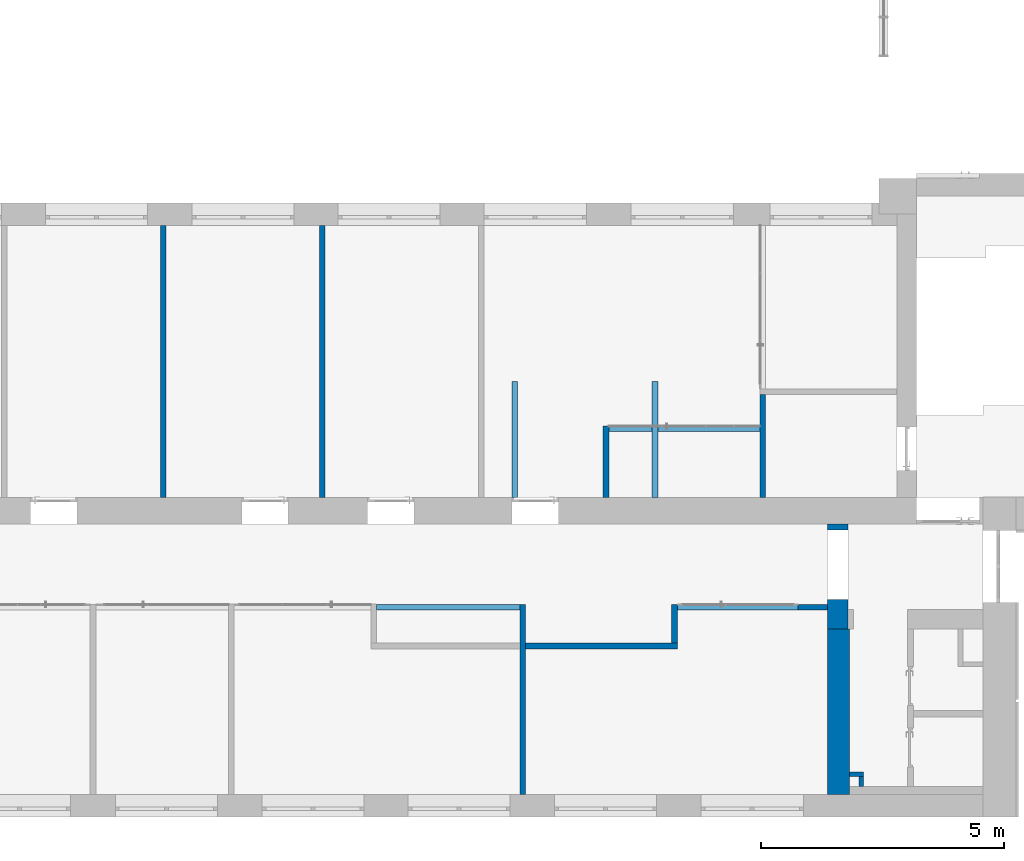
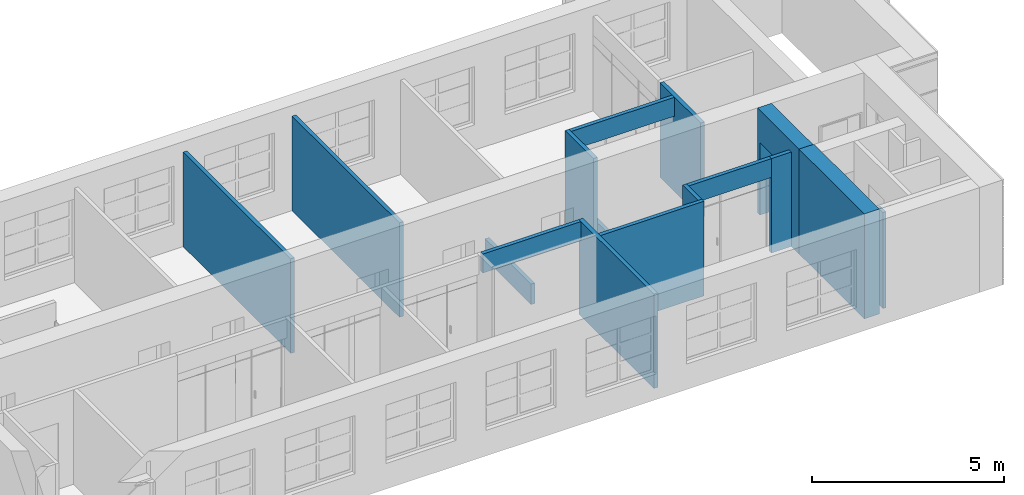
# One storey, part 58 of 73: 17 walls, 1 opening.
"""IFC2X3 building model written with IfcOpenShell, lengths in millimetres."""

from ifc_helpers import new_model, entity, si_unit, converted_unit, derived_unit, direction, frame, frame_2d, origin, place, context, subcontext, project, spatial, rectangle, extrude, material, layer, layer_set, layer_usage, type_object, element, save


model = new_model("IFC2X3")

# Units and contexts
model_context = context("Model", 3, precision=0.01, world=origin(), true_north=direction((6.12303176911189e-17, 1.0)))
body_context = subcontext(model_context, "Body", "Model", "MODEL_VIEW")
ifc_project = project(units=[si_unit("LENGTHUNIT", "METRE", prefix="MILLI"), si_unit("AREAUNIT", "SQUARE_METRE"), si_unit("VOLUMEUNIT", "CUBIC_METRE"), converted_unit("PLANEANGLEUNIT", "DEGREE", entity("IfcRatioMeasure", 0.0174532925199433), si_unit("PLANEANGLEUNIT", "RADIAN"), dimensions=[0, 0, 0, 0, 0, 0, 0]), si_unit("MASSUNIT", "GRAM", prefix="KILO"), derived_unit("MASSDENSITYUNIT", [(si_unit("MASSUNIT", "GRAM", prefix="KILO"), 1), (si_unit("LENGTHUNIT", "METRE"), -3)]), si_unit("TIMEUNIT", "SECOND"), si_unit("FREQUENCYUNIT", "HERTZ"), si_unit("THERMODYNAMICTEMPERATUREUNIT", "DEGREE_CELSIUS"), derived_unit("THERMALTRANSMITTANCEUNIT", [(si_unit("MASSUNIT", "GRAM", prefix="KILO"), 1), (si_unit("THERMODYNAMICTEMPERATUREUNIT", "KELVIN"), -1), (si_unit("TIMEUNIT", "SECOND"), -3)]), derived_unit("VOLUMETRICFLOWRATEUNIT", [(si_unit("LENGTHUNIT", "METRE"), 3), (si_unit("TIMEUNIT", "SECOND"), -1)]), si_unit("ELECTRICCURRENTUNIT", "AMPERE"), si_unit("ELECTRICVOLTAGEUNIT", "VOLT"), si_unit("POWERUNIT", "WATT"), si_unit("FORCEUNIT", "NEWTON", prefix="KILO"), si_unit("ILLUMINANCEUNIT", "LUX"), si_unit("LUMINOUSFLUXUNIT", "LUMEN"), si_unit("LUMINOUSINTENSITYUNIT", "CANDELA"), derived_unit("USERDEFINED", [(si_unit("MASSUNIT", "GRAM", prefix="KILO"), -1), (si_unit("LENGTHUNIT", "METRE"), -2), (si_unit("TIMEUNIT", "SECOND"), 3), (si_unit("LUMINOUSFLUXUNIT", "LUMEN"), 1)]), derived_unit("LINEARVELOCITYUNIT", [(si_unit("LENGTHUNIT", "METRE"), 1), (si_unit("TIMEUNIT", "SECOND"), -1)]), si_unit("PRESSUREUNIT", "PASCAL"), derived_unit("USERDEFINED", [(si_unit("LENGTHUNIT", "METRE"), -2), (si_unit("MASSUNIT", "GRAM", prefix="KILO"), 1), (si_unit("TIMEUNIT", "SECOND"), -2)])], contexts=[model_context])

# Site, building, storey
site_placement = place(None, frame((-151.875543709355, 2715.0, 0.0)))
site = spatial("IfcSite", under=ifc_project, at=site_placement, Name="Surface", CompositionType="ELEMENT")
building_placement = place(site_placement, origin())
building = spatial("IfcBuilding", under=site, at=building_placement, CompositionType="ELEMENT")
storey_placement = place(building_placement, frame((0.0, 0.0, 6730.43000000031)))
storey = spatial("IfcBuildingStorey", under=building, at=storey_placement, Name="3 korrus", CompositionType="ELEMENT", Elevation=6730.43000000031)

# Wall, opening
ifc_material_1 = material(Name="__Kips GN13_tava")
ifc_layer_1 = layer(ifc_material_1, 20.0)
ifc_material_2 = material(Name="Brick, Common")
ifc_layer_2 = layer(ifc_material_2, 380.0)
ifc_layer_3 = layer(ifc_material_1, 20.0)
ifc_layer_set_1 = layer_set([ifc_layer_1, ifc_layer_2, ifc_layer_3], Name="Basic Wall:SS-1_420mm")
ifc_layer_usage_1 = layer_usage(ifc_layer_set_1, "AXIS2", "NEGATIVE", 210.0)
wall_type_1 = type_object("IfcWallType", Name="Basic Wall:SS-1_420mm", PredefinedType="STANDARD", material=ifc_layer_set_1)
wall_1_placement = place(storey_placement, frame((30754.0171594, 6010.0, 0.00203353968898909), z_axis=(0.0, 0.0, 1.0), x_axis=(0.0, -1.0, 0.0)))
wall_1 = element("IfcWallStandardCase", 1, at=wall_1_placement, inside=storey, type_object=wall_type_1, material=ifc_layer_usage_1, Name="SEIN - 002", ObjectType="Basic Wall:SS-1_420mm", context=body_context, shape_type="SweptSolid", body=[
    extrude(rectangle(XDim=2156.15710156, YDim=420.0, at=frame_2d((1078.07855078, 0.0), x_axis=(-1.0, 0.0))), origin(), (0.0, 0.0, 1.0), 3329.56796646),
])
opening_placement = place(wall_1_placement, origin())
element("IfcOpeningElement", 2, at=opening_placement, cuts=wall_1, Name="SEIN - 002", ObjectType="Opening", context=body_context, shape_type="SweptSolid", body=[
    extrude(rectangle(XDim=2300.0, YDim=1427.37735237, at=frame_2d((5.6843418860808e-13, 0.0), x_axis=(1.0, 0.0))), frame((829.518263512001, -210.0, 1150.0), z_axis=(0.0, 1.0, 0.0), x_axis=(0.0, 0.0, 1.0)), (0.0, 0.0, 1.0), 840.0),
])

# Walls
ifc_material_3 = material(Name="__Hall krohv")
ifc_layer_4 = layer(ifc_material_3, 10.0)
ifc_material_4 = material(Name="Tellis")
ifc_layer_5 = layer(ifc_material_4, 430.0)
ifc_layer_6 = layer(ifc_material_3, 10.0)
ifc_layer_set_2 = layer_set([ifc_layer_4, ifc_layer_5, ifc_layer_6], Name="Basic Wall:SS-01_ol.olev tellissein450")
ifc_layer_usage_2 = layer_usage(ifc_layer_set_2, "AXIS2", "NEGATIVE", 225.0)
wall_type_2 = type_object("IfcWallType", Name="Basic Wall:SS-01_ol.olev tellissein450", PredefinedType="STANDARD", material=ifc_layer_set_2)
wall_2_placement = place(storey_placement, frame((30769.0171594, 4053.84289844, 0.00203353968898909), z_axis=(0.0, 0.0, 1.0), x_axis=(0.0, -1.0, 0.0)))
element("IfcWallStandardCase", 3, at=wall_2_placement, inside=storey, type_object=wall_type_2, material=ifc_layer_usage_2, Name="SEIN - 002", ObjectType="Basic Wall:SS-01_ol.olev tellissein450", context=body_context, shape_type="SweptSolid", body=[
    extrude(rectangle(XDim=3393.93826587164, YDim=450.000000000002, at=frame_2d((1896.96913293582, 0.0), x_axis=(-1.0, 0.0))), origin(), (0.0, 0.0, 1.0), 3329.56796646),
])
ifc_layer_7 = layer(ifc_material_1, 12.5)
ifc_layer_8 = layer(ifc_material_1, 12.5)
ifc_material_5 = material(Name="__Soojustus EPS")
ifc_layer_9 = layer(ifc_material_5, 66.0)
ifc_layer_10 = layer(ifc_material_1, 12.5)
ifc_layer_11 = layer(ifc_material_1, 12.5)
ifc_layer_set_3 = layer_set([ifc_layer_7, ifc_layer_8, ifc_layer_9, ifc_layer_10, ifc_layer_11], Name="Basic Wall:SS-3_Kipssein tava ruumide vahel")
ifc_layer_usage_3 = layer_usage(ifc_layer_set_3, "AXIS2", "NEGATIVE", 58.0)
wall_type_3 = type_object("IfcWallType", Name="Basic Wall:SS-3_Kipssein tava ruumide vahel", PredefinedType="STANDARD", material=ifc_layer_set_3)
wall_3_placement = place(storey_placement, frame((24287.564726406, 4365.04493399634, 0.0), z_axis=(0.0, 0.0, 1.0), x_axis=(0.0, -1.0, 0.0)))
element("IfcWallStandardCase", 4, at=wall_3_placement, inside=storey, type_object=wall_type_3, material=ifc_layer_usage_3, Name="Basic Wall:SS-3_Kipssein tava ruumide vahel", ObjectType="Basic Wall:SS-3_Kipssein tava ruumide vahel", context=body_context, shape_type="SweptSolid", body=[
    extrude(rectangle(XDim=3905.140301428, YDim=116.0, at=frame_2d((1952.570150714, 0.0), x_axis=(-1.0, 0.0))), origin(), (0.0, 0.0, 1.0), 2999.57),
])
ifc_layer_usage_4 = layer_usage(ifc_layer_set_3, "AXIS2", "POSITIVE", -58.0)
wall_4_placement = place(storey_placement, frame((24345.564726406, 3507.04493399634, 0.0)))
element("IfcWallStandardCase", 5, at=wall_4_placement, inside=storey, type_object=wall_type_3, material=ifc_layer_usage_4, Name="Basic Wall:SS-3_Kipssein tava ruumide vahel", ObjectType="Basic Wall:SS-3_Kipssein tava ruumide vahel", context=body_context, shape_type="SweptSolid", body=[
    extrude(rectangle(XDim=3118.00000000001, YDim=116.0, at=frame_2d((1559.00000000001, -9.2370555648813e-14), x_axis=(-1.0, 0.0))), origin(), (0.0, 0.0, 1.0), 2999.57),
])
ifc_layer_usage_5 = layer_usage(ifc_layer_set_3, "AXIS2", "POSITIVE", -58.0)
wall_5_placement = place(storey_placement, frame((27405.564726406, 3565.04493399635, 0.0), z_axis=(0.0, 0.0, 1.0), x_axis=(0.0, 1.0, 0.0)))
element("IfcWallStandardCase", 6, at=wall_5_placement, inside=storey, type_object=wall_type_3, material=ifc_layer_usage_5, Name="Basic Wall:SS-3_Kipssein tava ruumide vahel", ObjectType="Basic Wall:SS-3_Kipssein tava ruumide vahel", context=body_context, shape_type="SweptSolid", body=[
    extrude(rectangle(XDim=799.999999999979, YDim=116.0, at=frame_2d((399.999999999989, 0.0), x_axis=(-1.0, 0.0))), origin(), (0.0, 0.0, 1.0), 2999.57),
])
ifc_layer_usage_6 = layer_usage(ifc_layer_set_3, "AXIS2", "NEGATIVE", 58.0)
wall_6_placement = place(storey_placement, frame((21284.2561468, 4307.04493399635, 2400.0)))
element("IfcWallStandardCase", 7, at=wall_6_placement, inside=storey, type_object=wall_type_3, material=ifc_layer_usage_6, Name="Basic Wall:SS-3_Kipssein tava ruumide vahel", ObjectType="Basic Wall:SS-3_Kipssein tava ruumide vahel", context=body_context, shape_type="SweptSolid", body=[
    extrude(rectangle(XDim=2945.30857960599, YDim=116.0, at=frame_2d((1472.65428980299, -9.9475983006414e-14), x_axis=(-1.0, 0.0))), origin(), (0.0, 0.0, 1.0), 599.569999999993),
])
ifc_layer_usage_7 = layer_usage(ifc_layer_set_3, "AXIS2", "NEGATIVE", 58.0)
wall_7_placement = place(storey_placement, frame((27463.564726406, 4307.04493399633, 2400.0)))
element("IfcWallStandardCase", 8, at=wall_7_placement, inside=storey, type_object=wall_type_3, material=ifc_layer_usage_7, Name="Basic Wall:SS-3_Kipssein tava ruumide vahel", ObjectType="Basic Wall:SS-3_Kipssein tava ruumide vahel", context=body_context, shape_type="SweptSolid", body=[
    extrude(rectangle(XDim=2480.452432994, YDim=116.0, at=frame_2d((1240.226216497, 0.0), x_axis=(-1.0, 0.0))), origin(), (0.0, 0.0, 1.0), 600.002033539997),
])
ifc_layer_usage_8 = layer_usage(ifc_layer_set_3, "AXIS2", "NEGATIVE", 58.0)
wall_8_placement = place(storey_placement, frame((20172.8493480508, 12150.0, 0.0), z_axis=(0.0, 0.0, 1.0), x_axis=(0.0, -1.0, 0.0)))
element("IfcWallStandardCase", 9, at=wall_8_placement, inside=storey, type_object=wall_type_3, material=ifc_layer_usage_8, Name="Basic Wall:SS-3_Kipssein tava ruumide vahel", ObjectType="Basic Wall:SS-3_Kipssein tava ruumide vahel", context=body_context, shape_type="SweptSolid", body=[
    extrude(rectangle(XDim=5590.0, YDim=116.0, at=frame_2d((2795.0, 0.0), x_axis=(-1.0, 0.0))), origin(), (0.0, 0.0, 1.0), 3000.0),
])
ifc_layer_usage_9 = layer_usage(ifc_layer_set_3, "AXIS2", "NEGATIVE", 58.0)
wall_9_placement = place(storey_placement, frame((16906.8493480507, 12150.0, 0.0), z_axis=(0.0, 0.0, 1.0), x_axis=(0.0, -1.0, 0.0)))
element("IfcWallStandardCase", 10, at=wall_9_placement, inside=storey, type_object=wall_type_3, material=ifc_layer_usage_9, Name="Basic Wall:SS-3_Kipssein tava ruumide vahel", ObjectType="Basic Wall:SS-3_Kipssein tava ruumide vahel", context=body_context, shape_type="SweptSolid", body=[
    extrude(rectangle(XDim=5590.0, YDim=116.0, at=frame_2d((2795.0, 0.0), x_axis=(-1.0, 0.0))), origin(), (0.0, 0.0, 1.0), 3000.0),
])
ifc_layer_usage_10 = layer_usage(ifc_layer_set_3, "AXIS2", "NEGATIVE", 58.0)
wall_10_placement = place(storey_placement, frame((25997.6162681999, 8031.06145812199, 0.0), z_axis=(0.0, 0.0, 1.0), x_axis=(0.0, -1.0, 0.0)))
element("IfcWallStandardCase", 11, at=wall_10_placement, inside=storey, type_object=wall_type_3, material=ifc_layer_usage_10, Name="Basic Wall:SS-3_Kipssein tava ruumide vahel", ObjectType="Basic Wall:SS-3_Kipssein tava ruumide vahel", context=body_context, shape_type="SweptSolid", body=[
    extrude(rectangle(XDim=1471.06145812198, YDim=116.0, at=frame_2d((735.530729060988, -6.60804744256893e-13), x_axis=(-1.0, 0.0))), origin(), (0.0, 0.0, 1.0), 3000.0),
])
ifc_layer_usage_11 = layer_usage(ifc_layer_set_3, "AXIS2", "NEGATIVE", 58.0)
wall_11_placement = place(storey_placement, frame((29155.6162681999, 7973.06145812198, 2400.0), z_axis=(0.0, 0.0, 1.0), x_axis=(-1.0, 0.0, 0.0)))
element("IfcWallStandardCase", 12, at=wall_11_placement, inside=storey, type_object=wall_type_3, material=ifc_layer_usage_11, Name="Basic Wall:SS-3_Kipssein tava ruumide vahel", ObjectType="Basic Wall:SS-3_Kipssein tava ruumide vahel", context=body_context, shape_type="SweptSolid", body=[
    extrude(rectangle(XDim=3100.0, YDim=116.0, at=frame_2d((1550.0, 0.0), x_axis=(-1.0, 0.0))), origin(), (0.0, 0.0, 1.0), 599.999999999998),
])
ifc_layer_usage_12 = layer_usage(ifc_layer_set_3, "AXIS2", "NEGATIVE", 58.0)
wall_12_placement = place(storey_placement, frame((24121.28599988, 6560.0, -980.429999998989), z_axis=(0.0, 0.0, 1.0), x_axis=(0.0, 1.0, 0.0)))
element("IfcWallStandardCase", 13, at=wall_12_placement, inside=storey, type_object=wall_type_3, material=ifc_layer_usage_12, Name="Basic Wall:SS-3_Kipssein tava ruumide vahel", ObjectType="Basic Wall:SS-3_Kipssein tava ruumide vahel", context=body_context, shape_type="SweptSolid", body=[
    extrude(rectangle(XDim=2383.99999999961, YDim=116.0, at=frame_2d((1191.9999999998, -4.2632564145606e-13), x_axis=(-1.0, 0.0))), origin(), (0.0, 0.0, 1.0), 650.432033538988),
])
ifc_layer_usage_13 = layer_usage(ifc_layer_set_3, "AXIS2", "NEGATIVE", 58.0)
wall_13_placement = place(storey_placement, frame((27005.2859998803, 6560.0, -980.429999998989), z_axis=(0.0, 0.0, 1.0), x_axis=(0.0, 1.0, 0.0)))
element("IfcWallStandardCase", 14, at=wall_13_placement, inside=storey, type_object=wall_type_3, material=ifc_layer_usage_13, Name="Basic Wall:SS-3_Kipssein tava ruumide vahel", ObjectType="Basic Wall:SS-3_Kipssein tava ruumide vahel", context=body_context, shape_type="SweptSolid", body=[
    extrude(rectangle(XDim=2383.99999999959, YDim=116.0, at=frame_2d((1191.9999999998, -4.2632564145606e-13), x_axis=(-1.0, 0.0))), origin(), (0.0, 0.0, 1.0), 650.432033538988),
])
ifc_layer_usage_14 = layer_usage(ifc_layer_set_3, "AXIS2", "NEGATIVE", 58.0)
wall_14_placement = place(storey_placement, frame((30544.0171594, 4307.04493399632, 0.0), z_axis=(0.0, 0.0, 1.0), x_axis=(-1.0, 0.0, 0.0)))
element("IfcWallStandardCase", 15, at=wall_14_placement, inside=storey, type_object=wall_type_3, material=ifc_layer_usage_14, Name="Basic Wall:SS-3_Kipssein tava ruumide vahel", ObjectType="Basic Wall:SS-3_Kipssein tava ruumide vahel", context=body_context, shape_type="SweptSolid", body=[
    extrude(rectangle(XDim=599.999999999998, YDim=116.0, at=frame_2d((299.999999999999, 1.74082970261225e-13), x_axis=(-1.0, 0.0))), origin(), (0.0, 0.0, 1.0), 2999.57),
])
ifc_layer_12 = layer(ifc_material_1, 12.5)
ifc_layer_13 = layer(ifc_material_1, 12.5)
ifc_layer_14 = layer(ifc_material_5, 66.0)
ifc_layer_15 = layer(ifc_material_1, 12.5)
ifc_layer_16 = layer(ifc_material_1, 12.5)
ifc_layer_set_4 = layer_set([ifc_layer_12, ifc_layer_13, ifc_layer_14, ifc_layer_15, ifc_layer_16], Name="Basic Wall:SS-3*_Kipssein EI-60")
ifc_layer_usage_15 = layer_usage(ifc_layer_set_4, "AXIS2", "NEGATIVE", 58.0)
wall_type_4 = type_object("IfcWallType", Name="Basic Wall:SS-3*_Kipssein EI-60", PredefinedType="STANDARD", material=ifc_layer_set_4)
wall_15_placement = place(storey_placement, frame((29213.6162681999, 8673.8297238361, 0.0), z_axis=(0.0, 0.0, 1.0), x_axis=(0.0, -1.0, 0.0)))
element("IfcWallStandardCase", 16, at=wall_15_placement, inside=storey, type_object=wall_type_4, material=ifc_layer_usage_15, Name="Basic Wall:SS-3*_Kipssein EI-60", ObjectType="Basic Wall:SS-3*_Kipssein EI-60", context=body_context, shape_type="SweptSolid", body=[
    extrude(rectangle(XDim=2113.8297238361, YDim=116.0, at=frame_2d((1056.91486191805, 0.0), x_axis=(-1.0, 0.0))), origin(), (0.0, 0.0, 1.0), 3000.0),
])
ifc_layer_17 = layer(ifc_material_1, 12.5)
ifc_layer_18 = layer(ifc_material_1, 12.5)
ifc_layer_19 = layer(ifc_material_5, 66.0)
ifc_layer_set_5 = layer_set([ifc_layer_17, ifc_layer_18, ifc_layer_19], Name="Basic Wall:Kipssein šahtile")
ifc_layer_usage_16 = layer_usage(ifc_layer_set_5, "AXIS2", "POSITIVE", -45.5)
wall_type_5 = type_object("IfcWallType", Name="Basic Wall:Kipssein šahtile", PredefinedType="STANDARD", material=ifc_layer_set_5)
wall_16_placement = place(storey_placement, frame((31285.0171594, 875.404632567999, 0.0), z_axis=(0.0, 0.0, 1.0), x_axis=(-1.0, 0.0, 0.0)))
element("IfcWallStandardCase", 17, at=wall_16_placement, inside=storey, type_object=wall_type_5, material=ifc_layer_usage_16, Name="Basic Wall:Kipssein šahtile", ObjectType="Basic Wall:Kipssein šahtile", context=body_context, shape_type="SweptSolid", body=[
    extrude(rectangle(XDim=290.999999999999, YDim=90.9999999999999, at=frame_2d((145.499999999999, 3.5527136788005e-14), x_axis=(-1.0, 0.0))), origin(), (0.0, 0.0, 1.0), 3050.0),
])
ifc_layer_usage_17 = layer_usage(ifc_layer_set_5, "AXIS2", "POSITIVE", -45.5)
wall_17_placement = place(storey_placement, frame((31239.5171594, 619.904632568, 0.0), z_axis=(0.0, 0.0, 1.0), x_axis=(0.0, 1.0, 0.0)))
element("IfcWallStandardCase", 18, at=wall_17_placement, inside=storey, type_object=wall_type_5, material=ifc_layer_usage_17, Name="Basic Wall:Kipssein šahtile", ObjectType="Basic Wall:Kipssein šahtile", context=body_context, shape_type="SweptSolid", body=[
    extrude(rectangle(XDim=210.0, YDim=90.9999999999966, at=frame_2d((105.0, 3.90798504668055e-14), x_axis=(-1.0, 0.0))), origin(), (0.0, 0.0, 1.0), 3050.0),
])

save(model, "model.ifc")
